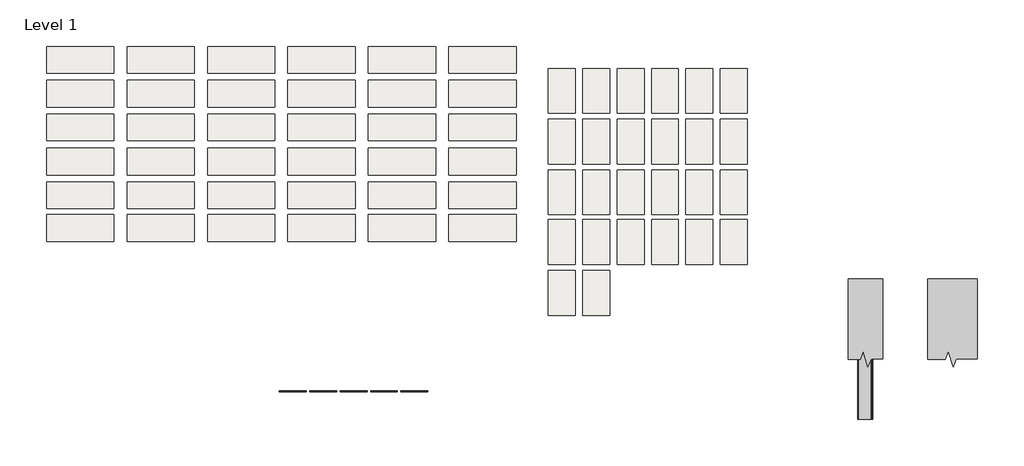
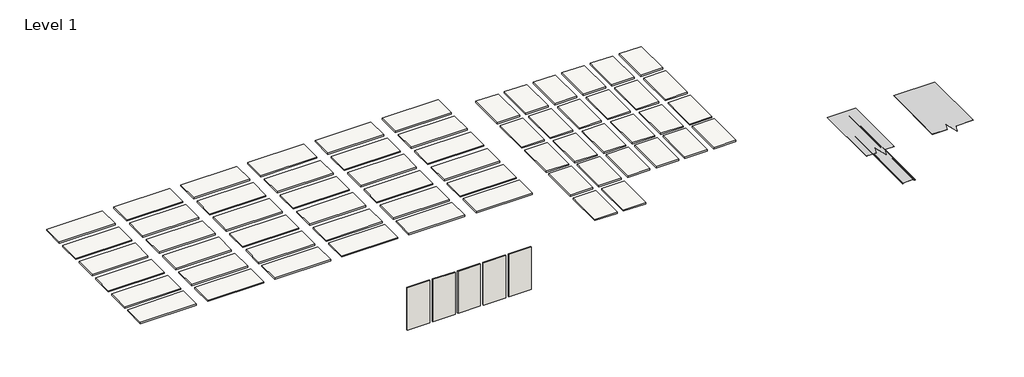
# One storey: 62 slabs, 5 walls, 3 proxies.
"""IFC4 building model written with IfcOpenShell, lengths in millimetres."""

from ifc_helpers import new_model, si_unit, frame, origin, origin_with_axes, place, context, project, spatial, polyline, outline, extrude, transform, mapped, element, save
from components import proxy_1fe1eae3, section_mask1_section_mask_d04c1bcf, section_mask2_section_mask_4546d134

model = new_model("IFC4")

# Units and contexts
model_context = context("Model", 3, world=origin())
ifc_project = project(units=[si_unit("LENGTHUNIT", "METRE", prefix="MILLI")], contexts=[model_context])

# Site, building, storey
site = spatial("IfcSite", under=ifc_project)
building = spatial("IfcBuilding", under=site)
storey = spatial("IfcBuildingStorey", under=building, Name="Level 1", Elevation=0.0)

# Proxies
placement = place(None, origin())
proxy_shape = proxy_1fe1eae3(model_context)
element("IfcBuildingElementProxy", 1, Name="Metal_Siding_Flush-Wall-Panel_Steelscape : 12\" Flush Wall Panel", ObjectType="Metal_Siding_Flush-Wall-Panel_Steelscape : 12\" Flush Wall Panel", at=placement, inside=storey, context=model_context, shape_type="MappedRepresentation", body=[
    mapped(proxy_shape, transform((8022.7632471, 2573.2522943, 0.0), x_axis=(1.0, 0.0, 0.0), y_axis=(0.0, 1.0, 0.0), z_axis=(0.0, 0.0, 1.0))),
])
section_mask1_section_mask_shape = section_mask1_section_mask_d04c1bcf(model_context)
element("IfcBuildingElementProxy", 2, Name="Section Mask1 : Section Mask", ObjectType="Section Mask1 : Section Mask", at=placement, inside=storey, context=model_context, shape_type="MappedRepresentation", body=[
    mapped(section_mask1_section_mask_shape, transform((1955.8, 0.0, 0.0), x_axis=(1.0, 0.0, 0.0), y_axis=(0.0, 1.0, 0.0), z_axis=(0.0, 0.0, 1.0))),
])
section_mask2_section_mask_shape = section_mask2_section_mask_4546d134(model_context)
element("IfcBuildingElementProxy", 3, Name="Section Mask2 : Section Mask", ObjectType="Section Mask2 : Section Mask", at=placement, inside=storey, context=model_context, shape_type="MappedRepresentation", body=[
    mapped(section_mask2_section_mask_shape, transform((19.05, 0.0, 0.0), x_axis=(1.0, 0.0, 0.0), y_axis=(0.0, 1.0, 0.0), z_axis=(0.0, 0.0, 1.0))),
])

# Slabs
element("IfcSlab", 4, ObjectType="Metal Siding - PAINTED - Steelscape", at=placement, inside=storey, context=model_context, shape_type="SweptSolid", body=[
    extrude(outline(polyline([(-9006.1610252, 7398.0362798), (-10530.1610252, 7398.0362798), (-10530.1610252, 8007.6362798), (-9006.1610252, 8007.6362798), (-9006.1610252, 7398.0362798)])), frame((0.0, 0.0, -38.1), z_axis=(0.0, 0.0, 1.0), x_axis=(1.0, 0.0, 0.0)), (0.0, 0.0, 1.0), 38.1),
])
element("IfcSlab", 5, ObjectType="Metal Siding - PAINTED - Steelscape", at=placement, inside=storey, context=model_context, shape_type="SweptSolid", body=[
    extrude(outline(polyline([(-9006.1610252, 6629.6862798), (-10530.1610252, 6629.6862798), (-10530.1610252, 7239.2862798), (-9006.1610252, 7239.2862798), (-9006.1610252, 6629.6862798)])), frame((0.0, 0.0, -38.1), z_axis=(0.0, 0.0, 1.0), x_axis=(1.0, 0.0, 0.0)), (0.0, 0.0, 1.0), 38.1),
])
element("IfcSlab", 6, ObjectType="Metal Siding - PAINTED - Steelscape", at=placement, inside=storey, context=model_context, shape_type="SweptSolid", body=[
    extrude(outline(polyline([(-9006.1610252, 5861.3362798), (-10530.1610252, 5861.3362798), (-10530.1610252, 6470.9362798), (-9006.1610252, 6470.9362798), (-9006.1610252, 5861.3362798)])), frame((0.0, 0.0, -38.1), z_axis=(0.0, 0.0, 1.0), x_axis=(1.0, 0.0, 0.0)), (0.0, 0.0, 1.0), 38.1),
])
element("IfcSlab", 7, ObjectType="Metal Siding - PAINTED - Steelscape", at=placement, inside=storey, context=model_context, shape_type="SweptSolid", body=[
    extrude(outline(polyline([(-9006.1610252, 5086.6362798), (-10530.1610252, 5086.6362798), (-10530.1610252, 5696.2362798), (-9006.1610252, 5696.2362798), (-9006.1610252, 5086.6362798)])), frame((0.0, 0.0, -38.1), z_axis=(0.0, 0.0, 1.0), x_axis=(1.0, 0.0, 0.0)), (0.0, 0.0, 1.0), 38.1),
])
element("IfcSlab", 8, ObjectType="Metal Siding - PAINTED - Steelscape", at=placement, inside=storey, context=model_context, shape_type="SweptSolid", body=[
    extrude(outline(polyline([(-9006.1610252, 4318.2862798), (-10530.1610252, 4318.2862798), (-10530.1610252, 4927.8862798), (-9006.1610252, 4927.8862798), (-9006.1610252, 4318.2862798)])), frame((0.0, 0.0, -38.1), z_axis=(0.0, 0.0, 1.0), x_axis=(1.0, 0.0, 0.0)), (0.0, 0.0, 1.0), 38.1),
])
element("IfcSlab", 9, ObjectType="Metal Siding - PAINTED - Steelscape", at=placement, inside=storey, context=model_context, shape_type="SweptSolid", body=[
    extrude(outline(polyline([(-9006.1610252, 3575.3362798), (-10530.1610252, 3575.3362798), (-10530.1610252, 4184.9362798), (-9006.1610252, 4184.9362798), (-9006.1610252, 3575.3362798)])), frame((0.0, 0.0, -38.1), z_axis=(0.0, 0.0, 1.0), x_axis=(1.0, 0.0, 0.0)), (0.0, 0.0, 1.0), 38.1),
])
element("IfcSlab", 10, ObjectType="Metal Siding - PAINTED - Steelscape", at=placement, inside=storey, context=model_context, shape_type="SweptSolid", body=[
    extrude(outline(polyline([(-7177.3610252, 7398.0362798), (-8701.3610252, 7398.0362798), (-8701.3610252, 8007.6362798), (-7177.3610252, 8007.6362798), (-7177.3610252, 7398.0362798)])), frame((0.0, 0.0, -38.1), z_axis=(0.0, 0.0, 1.0), x_axis=(1.0, 0.0, 0.0)), (0.0, 0.0, 1.0), 38.1),
])
element("IfcSlab", 11, ObjectType="Metal Siding - PAINTED - Steelscape", at=placement, inside=storey, context=model_context, shape_type="SweptSolid", body=[
    extrude(outline(polyline([(-7177.3610252, 6629.6862798), (-8701.3610252, 6629.6862798), (-8701.3610252, 7239.2862798), (-7177.3610252, 7239.2862798), (-7177.3610252, 6629.6862798)])), frame((0.0, 0.0, -38.1), z_axis=(0.0, 0.0, 1.0), x_axis=(1.0, 0.0, 0.0)), (0.0, 0.0, 1.0), 38.1),
])
element("IfcSlab", 12, ObjectType="Metal Siding - PAINTED - Steelscape", at=placement, inside=storey, context=model_context, shape_type="SweptSolid", body=[
    extrude(outline(polyline([(-7177.3610252, 5861.3362798), (-8701.3610252, 5861.3362798), (-8701.3610252, 6470.9362798), (-7177.3610252, 6470.9362798), (-7177.3610252, 5861.3362798)])), frame((0.0, 0.0, -38.1), z_axis=(0.0, 0.0, 1.0), x_axis=(1.0, 0.0, 0.0)), (0.0, 0.0, 1.0), 38.1),
])
element("IfcSlab", 13, ObjectType="Metal Siding - PAINTED - Steelscape", at=placement, inside=storey, context=model_context, shape_type="SweptSolid", body=[
    extrude(outline(polyline([(-7177.3610252, 5086.6362798), (-8701.3610252, 5086.6362798), (-8701.3610252, 5696.2362798), (-7177.3610252, 5696.2362798), (-7177.3610252, 5086.6362798)])), frame((0.0, 0.0, -38.1), z_axis=(0.0, 0.0, 1.0), x_axis=(1.0, 0.0, 0.0)), (0.0, 0.0, 1.0), 38.1),
])
element("IfcSlab", 14, ObjectType="Metal Siding - PAINTED - Steelscape", at=placement, inside=storey, context=model_context, shape_type="SweptSolid", body=[
    extrude(outline(polyline([(-7177.3610252, 4318.2862798), (-8701.3610252, 4318.2862798), (-8701.3610252, 4927.8862798), (-7177.3610252, 4927.8862798), (-7177.3610252, 4318.2862798)])), frame((0.0, 0.0, -38.1), z_axis=(0.0, 0.0, 1.0), x_axis=(1.0, 0.0, 0.0)), (0.0, 0.0, 1.0), 38.1),
])
element("IfcSlab", 15, ObjectType="Metal Siding - PAINTED - Steelscape", at=placement, inside=storey, context=model_context, shape_type="SweptSolid", body=[
    extrude(outline(polyline([(-7177.3610252, 3575.3362798), (-8701.3610252, 3575.3362798), (-8701.3610252, 4184.9362798), (-7177.3610252, 4184.9362798), (-7177.3610252, 3575.3362798)])), frame((0.0, 0.0, -38.1), z_axis=(0.0, 0.0, 1.0), x_axis=(1.0, 0.0, 0.0)), (0.0, 0.0, 1.0), 38.1),
])
element("IfcSlab", 16, ObjectType="Metal Siding - PAINTED - Steelscape", at=placement, inside=storey, context=model_context, shape_type="SweptSolid", body=[
    extrude(outline(polyline([(-5348.5610252, 7398.0362798), (-6872.5610252, 7398.0362798), (-6872.5610252, 8007.6362798), (-5348.5610252, 8007.6362798), (-5348.5610252, 7398.0362798)])), frame((0.0, 0.0, -38.1), z_axis=(0.0, 0.0, 1.0), x_axis=(1.0, 0.0, 0.0)), (0.0, 0.0, 1.0), 38.1),
])
element("IfcSlab", 17, ObjectType="Metal Siding - PAINTED - Steelscape", at=placement, inside=storey, context=model_context, shape_type="SweptSolid", body=[
    extrude(outline(polyline([(-5348.5610252, 6629.6862798), (-6872.5610252, 6629.6862798), (-6872.5610252, 7239.2862798), (-5348.5610252, 7239.2862798), (-5348.5610252, 6629.6862798)])), frame((0.0, 0.0, -38.1), z_axis=(0.0, 0.0, 1.0), x_axis=(1.0, 0.0, 0.0)), (0.0, 0.0, 1.0), 38.1),
])
element("IfcSlab", 18, ObjectType="Metal Siding - PAINTED - Steelscape", at=placement, inside=storey, context=model_context, shape_type="SweptSolid", body=[
    extrude(outline(polyline([(-5348.5610252, 5861.3362798), (-6872.5610252, 5861.3362798), (-6872.5610252, 6470.9362798), (-5348.5610252, 6470.9362798), (-5348.5610252, 5861.3362798)])), frame((0.0, 0.0, -38.1), z_axis=(0.0, 0.0, 1.0), x_axis=(1.0, 0.0, 0.0)), (0.0, 0.0, 1.0), 38.1),
])
element("IfcSlab", 19, ObjectType="Metal Siding - PAINTED - Steelscape", at=placement, inside=storey, context=model_context, shape_type="SweptSolid", body=[
    extrude(outline(polyline([(-5348.5610252, 5086.6362798), (-6872.5610252, 5086.6362798), (-6872.5610252, 5696.2362798), (-5348.5610252, 5696.2362798), (-5348.5610252, 5086.6362798)])), frame((0.0, 0.0, -38.1), z_axis=(0.0, 0.0, 1.0), x_axis=(1.0, 0.0, 0.0)), (0.0, 0.0, 1.0), 38.1),
])
element("IfcSlab", 20, ObjectType="Metal Siding - PAINTED - Steelscape", at=placement, inside=storey, context=model_context, shape_type="SweptSolid", body=[
    extrude(outline(polyline([(-5348.5610252, 4318.2862798), (-6872.5610252, 4318.2862798), (-6872.5610252, 4927.8862798), (-5348.5610252, 4927.8862798), (-5348.5610252, 4318.2862798)])), frame((0.0, 0.0, -38.1), z_axis=(0.0, 0.0, 1.0), x_axis=(1.0, 0.0, 0.0)), (0.0, 0.0, 1.0), 38.1),
])
element("IfcSlab", 21, ObjectType="Metal Siding - PAINTED - Steelscape", at=placement, inside=storey, context=model_context, shape_type="SweptSolid", body=[
    extrude(outline(polyline([(-5348.5610252, 3575.3362798), (-6872.5610252, 3575.3362798), (-6872.5610252, 4184.9362798), (-5348.5610252, 4184.9362798), (-5348.5610252, 3575.3362798)])), frame((0.0, 0.0, -38.1), z_axis=(0.0, 0.0, 1.0), x_axis=(1.0, 0.0, 0.0)), (0.0, 0.0, 1.0), 38.1),
])
element("IfcSlab", 22, ObjectType="Metal Siding - PAINTED - Steelscape", at=placement, inside=storey, context=model_context, shape_type="SweptSolid", body=[
    extrude(outline(polyline([(-3519.7610252, 7398.0362798), (-5043.7610252, 7398.0362798), (-5043.7610252, 8007.6362798), (-3519.7610252, 8007.6362798), (-3519.7610252, 7398.0362798)])), frame((0.0, 0.0, -38.1), z_axis=(0.0, 0.0, 1.0), x_axis=(1.0, 0.0, 0.0)), (0.0, 0.0, 1.0), 38.1),
])
element("IfcSlab", 23, ObjectType="Metal Siding - PAINTED - Steelscape", at=placement, inside=storey, context=model_context, shape_type="SweptSolid", body=[
    extrude(outline(polyline([(-3519.7610252, 6629.6862798), (-5043.7610252, 6629.6862798), (-5043.7610252, 7239.2862798), (-3519.7610252, 7239.2862798), (-3519.7610252, 6629.6862798)])), frame((0.0, 0.0, -38.1), z_axis=(0.0, 0.0, 1.0), x_axis=(1.0, 0.0, 0.0)), (0.0, 0.0, 1.0), 38.1),
])
element("IfcSlab", 24, ObjectType="Metal Siding - PAINTED - Steelscape", at=placement, inside=storey, context=model_context, shape_type="SweptSolid", body=[
    extrude(outline(polyline([(-3519.7610252, 5861.3362798), (-5043.7610252, 5861.3362798), (-5043.7610252, 6470.9362798), (-3519.7610252, 6470.9362798), (-3519.7610252, 5861.3362798)])), frame((0.0, 0.0, -38.1), z_axis=(0.0, 0.0, 1.0), x_axis=(1.0, 0.0, 0.0)), (0.0, 0.0, 1.0), 38.1),
])
element("IfcSlab", 25, ObjectType="Metal Siding - PAINTED - Steelscape", at=placement, inside=storey, context=model_context, shape_type="SweptSolid", body=[
    extrude(outline(polyline([(-3519.7610252, 5086.6362798), (-5043.7610252, 5086.6362798), (-5043.7610252, 5696.2362798), (-3519.7610252, 5696.2362798), (-3519.7610252, 5086.6362798)])), frame((0.0, 0.0, -38.1), z_axis=(0.0, 0.0, 1.0), x_axis=(1.0, 0.0, 0.0)), (0.0, 0.0, 1.0), 38.1),
])
element("IfcSlab", 26, ObjectType="Metal Siding - PAINTED - Steelscape", at=placement, inside=storey, context=model_context, shape_type="SweptSolid", body=[
    extrude(outline(polyline([(-3519.7610252, 4318.2862798), (-5043.7610252, 4318.2862798), (-5043.7610252, 4927.8862798), (-3519.7610252, 4927.8862798), (-3519.7610252, 4318.2862798)])), frame((0.0, 0.0, -38.1), z_axis=(0.0, 0.0, 1.0), x_axis=(1.0, 0.0, 0.0)), (0.0, 0.0, 1.0), 38.1),
])
element("IfcSlab", 27, ObjectType="Metal Siding - PAINTED - Steelscape", at=placement, inside=storey, context=model_context, shape_type="SweptSolid", body=[
    extrude(outline(polyline([(-3519.7610252, 3575.3362798), (-5043.7610252, 3575.3362798), (-5043.7610252, 4184.9362798), (-3519.7610252, 4184.9362798), (-3519.7610252, 3575.3362798)])), frame((0.0, 0.0, -38.1), z_axis=(0.0, 0.0, 1.0), x_axis=(1.0, 0.0, 0.0)), (0.0, 0.0, 1.0), 38.1),
])
element("IfcSlab", 28, ObjectType="Metal Siding - PAINTED - Steelscape", at=placement, inside=storey, context=model_context, shape_type="SweptSolid", body=[
    extrude(outline(polyline([(-1690.9610252, 7398.0362798), (-3214.9610252, 7398.0362798), (-3214.9610252, 8007.6362798), (-1690.9610252, 8007.6362798), (-1690.9610252, 7398.0362798)])), frame((0.0, 0.0, -38.1), z_axis=(0.0, 0.0, 1.0), x_axis=(1.0, 0.0, 0.0)), (0.0, 0.0, 1.0), 38.1),
])
element("IfcSlab", 29, ObjectType="Metal Siding - PAINTED - Steelscape", at=placement, inside=storey, context=model_context, shape_type="SweptSolid", body=[
    extrude(outline(polyline([(-1690.9610252, 6629.6862798), (-3214.9610252, 6629.6862798), (-3214.9610252, 7239.2862798), (-1690.9610252, 7239.2862798), (-1690.9610252, 6629.6862798)])), frame((0.0, 0.0, -38.1), z_axis=(0.0, 0.0, 1.0), x_axis=(1.0, 0.0, 0.0)), (0.0, 0.0, 1.0), 38.1),
])
element("IfcSlab", 30, ObjectType="Metal Siding - PAINTED - Steelscape", at=placement, inside=storey, context=model_context, shape_type="SweptSolid", body=[
    extrude(outline(polyline([(-1690.9610252, 5861.3362798), (-3214.9610252, 5861.3362798), (-3214.9610252, 6470.9362798), (-1690.9610252, 6470.9362798), (-1690.9610252, 5861.3362798)])), frame((0.0, 0.0, -38.1), z_axis=(0.0, 0.0, 1.0), x_axis=(1.0, 0.0, 0.0)), (0.0, 0.0, 1.0), 38.1),
])
element("IfcSlab", 31, ObjectType="Metal Siding - PAINTED - Steelscape", at=placement, inside=storey, context=model_context, shape_type="SweptSolid", body=[
    extrude(outline(polyline([(-1690.9610252, 5086.6362798), (-3214.9610252, 5086.6362798), (-3214.9610252, 5696.2362798), (-1690.9610252, 5696.2362798), (-1690.9610252, 5086.6362798)])), frame((0.0, 0.0, -38.1), z_axis=(0.0, 0.0, 1.0), x_axis=(1.0, 0.0, 0.0)), (0.0, 0.0, 1.0), 38.1),
])
element("IfcSlab", 32, ObjectType="Metal Siding - PAINTED - Steelscape", at=placement, inside=storey, context=model_context, shape_type="SweptSolid", body=[
    extrude(outline(polyline([(-1690.9610252, 4318.2862798), (-3214.9610252, 4318.2862798), (-3214.9610252, 4927.8862798), (-1690.9610252, 4927.8862798), (-1690.9610252, 4318.2862798)])), frame((0.0, 0.0, -38.1), z_axis=(0.0, 0.0, 1.0), x_axis=(1.0, 0.0, 0.0)), (0.0, 0.0, 1.0), 38.1),
])
element("IfcSlab", 33, ObjectType="Metal Siding - PAINTED - Steelscape", at=placement, inside=storey, context=model_context, shape_type="SweptSolid", body=[
    extrude(outline(polyline([(-1690.9610252, 3575.3362798), (-3214.9610252, 3575.3362798), (-3214.9610252, 4184.9362798), (-1690.9610252, 4184.9362798), (-1690.9610252, 3575.3362798)])), frame((0.0, 0.0, -38.1), z_axis=(0.0, 0.0, 1.0), x_axis=(1.0, 0.0, 0.0)), (0.0, 0.0, 1.0), 38.1),
])
element("IfcSlab", 34, ObjectType="Metal Siding - PAINTED - Steelscape", at=placement, inside=storey, context=model_context, shape_type="SweptSolid", body=[
    extrude(outline(polyline([(137.8389748, 7398.0362798), (-1386.1610252, 7398.0362798), (-1386.1610252, 8007.6362798), (137.8389748, 8007.6362798), (137.8389748, 7398.0362798)])), frame((0.0, 0.0, -38.1), z_axis=(0.0, 0.0, 1.0), x_axis=(1.0, 0.0, 0.0)), (0.0, 0.0, 1.0), 38.1),
])
element("IfcSlab", 35, ObjectType="Metal Siding - PAINTED - Steelscape", at=placement, inside=storey, context=model_context, shape_type="SweptSolid", body=[
    extrude(outline(polyline([(137.8389748, 6629.6862798), (-1386.1610252, 6629.6862798), (-1386.1610252, 7239.2862798), (137.8389748, 7239.2862798), (137.8389748, 6629.6862798)])), frame((0.0, 0.0, -38.1), z_axis=(0.0, 0.0, 1.0), x_axis=(1.0, 0.0, 0.0)), (0.0, 0.0, 1.0), 38.1),
])
element("IfcSlab", 36, ObjectType="Metal Siding - PAINTED - Steelscape", at=placement, inside=storey, context=model_context, shape_type="SweptSolid", body=[
    extrude(outline(polyline([(137.8389748, 5861.3362798), (-1386.1610252, 5861.3362798), (-1386.1610252, 6470.9362798), (137.8389748, 6470.9362798), (137.8389748, 5861.3362798)])), frame((0.0, 0.0, -38.1), z_axis=(0.0, 0.0, 1.0), x_axis=(1.0, 0.0, 0.0)), (0.0, 0.0, 1.0), 38.1),
])
element("IfcSlab", 37, ObjectType="Metal Siding - PAINTED - Steelscape", at=placement, inside=storey, context=model_context, shape_type="SweptSolid", body=[
    extrude(outline(polyline([(137.8389748, 5086.6362798), (-1386.1610252, 5086.6362798), (-1386.1610252, 5696.2362798), (137.8389748, 5696.2362798), (137.8389748, 5086.6362798)])), frame((0.0, 0.0, -38.1), z_axis=(0.0, 0.0, 1.0), x_axis=(1.0, 0.0, 0.0)), (0.0, 0.0, 1.0), 38.1),
])
element("IfcSlab", 38, ObjectType="Metal Siding - PAINTED - Steelscape", at=placement, inside=storey, context=model_context, shape_type="SweptSolid", body=[
    extrude(outline(polyline([(137.8389748, 4318.2862798), (-1386.1610252, 4318.2862798), (-1386.1610252, 4927.8862798), (137.8389748, 4927.8862798), (137.8389748, 4318.2862798)])), frame((0.0, 0.0, -38.1), z_axis=(0.0, 0.0, 1.0), x_axis=(1.0, 0.0, 0.0)), (0.0, 0.0, 1.0), 38.1),
])
element("IfcSlab", 39, ObjectType="Metal Siding - PAINTED - Steelscape", at=placement, inside=storey, context=model_context, shape_type="SweptSolid", body=[
    extrude(outline(polyline([(137.8389748, 3575.3362798), (-1386.1610252, 3575.3362798), (-1386.1610252, 4184.9362798), (137.8389748, 4184.9362798), (137.8389748, 3575.3362798)])), frame((0.0, 0.0, -38.1), z_axis=(0.0, 0.0, 1.0), x_axis=(1.0, 0.0, 0.0)), (0.0, 0.0, 1.0), 38.1),
])
element("IfcSlab", 40, ObjectType="AEP Span Material Sample", at=placement, inside=storey, context=model_context, shape_type="SweptSolid", body=[
    extrude(outline(polyline([(1485.5495194, 6492.0895229), (875.9495194, 6492.0895229), (875.9495194, 7508.0895229), (1485.5495194, 7508.0895229), (1485.5495194, 6492.0895229)])), frame((0.0, 0.0, -38.1), z_axis=(0.0, 0.0, 1.0), x_axis=(1.0, 0.0, 0.0)), (0.0, 0.0, 1.0), 38.1),
])
element("IfcSlab", 41, ObjectType="AEP Span Material Sample", at=placement, inside=storey, context=model_context, shape_type="SweptSolid", body=[
    extrude(outline(polyline([(2266.5995194, 6492.0895229), (1656.9995194, 6492.0895229), (1656.9995194, 7508.0895229), (2266.5995194, 7508.0895229), (2266.5995194, 6492.0895229)])), frame((0.0, 0.0, -38.1), z_axis=(0.0, 0.0, 1.0), x_axis=(1.0, 0.0, 0.0)), (0.0, 0.0, 1.0), 38.1),
])
element("IfcSlab", 42, ObjectType="AEP Span Material Sample", at=placement, inside=storey, context=model_context, shape_type="SweptSolid", body=[
    extrude(outline(polyline([(3047.6495194, 6492.0895229), (2438.0495194, 6492.0895229), (2438.0495194, 7508.0895229), (3047.6495194, 7508.0895229), (3047.6495194, 6492.0895229)])), frame((0.0, 0.0, -38.1), z_axis=(0.0, 0.0, 1.0), x_axis=(1.0, 0.0, 0.0)), (0.0, 0.0, 1.0), 38.1),
])
element("IfcSlab", 43, ObjectType="AEP Span Material Sample", at=placement, inside=storey, context=model_context, shape_type="SweptSolid", body=[
    extrude(outline(polyline([(3828.6995194, 6492.0895229), (3219.0995194, 6492.0895229), (3219.0995194, 7508.0895229), (3828.6995194, 7508.0895229), (3828.6995194, 6492.0895229)])), frame((0.0, 0.0, -38.1), z_axis=(0.0, 0.0, 1.0), x_axis=(1.0, 0.0, 0.0)), (0.0, 0.0, 1.0), 38.1),
])
element("IfcSlab", 44, ObjectType="AEP Span Material Sample", at=placement, inside=storey, context=model_context, shape_type="SweptSolid", body=[
    extrude(outline(polyline([(4609.7495194, 6492.0895229), (4000.1495194, 6492.0895229), (4000.1495194, 7508.0895229), (4609.7495194, 7508.0895229), (4609.7495194, 6492.0895229)])), frame((0.0, 0.0, -38.1), z_axis=(0.0, 0.0, 1.0), x_axis=(1.0, 0.0, 0.0)), (0.0, 0.0, 1.0), 38.1),
])
element("IfcSlab", 45, ObjectType="AEP Span Material Sample", at=placement, inside=storey, context=model_context, shape_type="SweptSolid", body=[
    extrude(outline(polyline([(5390.7995194, 6492.0895229), (4781.1995194, 6492.0895229), (4781.1995194, 7508.0895229), (5390.7995194, 7508.0895229), (5390.7995194, 6492.0895229)])), frame((0.0, 0.0, -38.1), z_axis=(0.0, 0.0, 1.0), x_axis=(1.0, 0.0, 0.0)), (0.0, 0.0, 1.0), 38.1),
])
element("IfcSlab", 46, ObjectType="AEP Span Material Sample", at=placement, inside=storey, context=model_context, shape_type="SweptSolid", body=[
    extrude(outline(polyline([(1485.5495194, 5336.3895229), (875.9495194, 5336.3895229), (875.9495194, 6352.3895229), (1485.5495194, 6352.3895229), (1485.5495194, 5336.3895229)])), frame((0.0, 0.0, -38.1), z_axis=(0.0, 0.0, 1.0), x_axis=(1.0, 0.0, 0.0)), (0.0, 0.0, 1.0), 38.1),
])
element("IfcSlab", 47, ObjectType="AEP Span Material Sample", at=placement, inside=storey, context=model_context, shape_type="SweptSolid", body=[
    extrude(outline(polyline([(2266.5995194, 5336.3895229), (1656.9995194, 5336.3895229), (1656.9995194, 6352.3895229), (2266.5995194, 6352.3895229), (2266.5995194, 5336.3895229)])), frame((0.0, 0.0, -38.1), z_axis=(0.0, 0.0, 1.0), x_axis=(1.0, 0.0, 0.0)), (0.0, 0.0, 1.0), 38.1),
])
element("IfcSlab", 48, ObjectType="AEP Span Material Sample", at=placement, inside=storey, context=model_context, shape_type="SweptSolid", body=[
    extrude(outline(polyline([(3047.6495194, 5336.3895229), (2438.0495194, 5336.3895229), (2438.0495194, 6352.3895229), (3047.6495194, 6352.3895229), (3047.6495194, 5336.3895229)])), frame((0.0, 0.0, -38.1), z_axis=(0.0, 0.0, 1.0), x_axis=(1.0, 0.0, 0.0)), (0.0, 0.0, 1.0), 38.1),
])
element("IfcSlab", 49, ObjectType="AEP Span Material Sample", at=placement, inside=storey, context=model_context, shape_type="SweptSolid", body=[
    extrude(outline(polyline([(3828.6995194, 5336.3895229), (3219.0995194, 5336.3895229), (3219.0995194, 6352.3895229), (3828.6995194, 6352.3895229), (3828.6995194, 5336.3895229)])), frame((0.0, 0.0, -38.1), z_axis=(0.0, 0.0, 1.0), x_axis=(1.0, 0.0, 0.0)), (0.0, 0.0, 1.0), 38.1),
])
element("IfcSlab", 50, ObjectType="AEP Span Material Sample", at=placement, inside=storey, context=model_context, shape_type="SweptSolid", body=[
    extrude(outline(polyline([(4609.7495194, 5336.3895229), (4000.1495194, 5336.3895229), (4000.1495194, 6352.3895229), (4609.7495194, 6352.3895229), (4609.7495194, 5336.3895229)])), frame((0.0, 0.0, -38.1), z_axis=(0.0, 0.0, 1.0), x_axis=(1.0, 0.0, 0.0)), (0.0, 0.0, 1.0), 38.1),
])
element("IfcSlab", 51, ObjectType="AEP Span Material Sample", at=placement, inside=storey, context=model_context, shape_type="SweptSolid", body=[
    extrude(outline(polyline([(5390.7995194, 5336.3895229), (4781.1995194, 5336.3895229), (4781.1995194, 6352.3895229), (5390.7995194, 6352.3895229), (5390.7995194, 5336.3895229)])), frame((0.0, 0.0, -38.1), z_axis=(0.0, 0.0, 1.0), x_axis=(1.0, 0.0, 0.0)), (0.0, 0.0, 1.0), 38.1),
])
element("IfcSlab", 52, ObjectType="AEP Span Material Sample", at=placement, inside=storey, context=model_context, shape_type="SweptSolid", body=[
    extrude(outline(polyline([(1485.5495194, 4180.6895229), (875.9495194, 4180.6895229), (875.9495194, 5196.6895229), (1485.5495194, 5196.6895229), (1485.5495194, 4180.6895229)])), frame((0.0, 0.0, -38.1), z_axis=(0.0, 0.0, 1.0), x_axis=(1.0, 0.0, 0.0)), (0.0, 0.0, 1.0), 38.1),
])
element("IfcSlab", 53, ObjectType="AEP Span Material Sample", at=placement, inside=storey, context=model_context, shape_type="SweptSolid", body=[
    extrude(outline(polyline([(2266.5995194, 4180.6895229), (1656.9995194, 4180.6895229), (1656.9995194, 5196.6895229), (2266.5995194, 5196.6895229), (2266.5995194, 4180.6895229)])), frame((0.0, 0.0, -38.1), z_axis=(0.0, 0.0, 1.0), x_axis=(1.0, 0.0, 0.0)), (0.0, 0.0, 1.0), 38.1),
])
element("IfcSlab", 54, ObjectType="AEP Span Material Sample", at=placement, inside=storey, context=model_context, shape_type="SweptSolid", body=[
    extrude(outline(polyline([(3047.6495194, 4180.6895229), (2438.0495194, 4180.6895229), (2438.0495194, 5196.6895229), (3047.6495194, 5196.6895229), (3047.6495194, 4180.6895229)])), frame((0.0, 0.0, -38.1), z_axis=(0.0, 0.0, 1.0), x_axis=(1.0, 0.0, 0.0)), (0.0, 0.0, 1.0), 38.1),
])
element("IfcSlab", 55, ObjectType="AEP Span Material Sample", at=placement, inside=storey, context=model_context, shape_type="SweptSolid", body=[
    extrude(outline(polyline([(3828.6995194, 4180.6895229), (3219.0995194, 4180.6895229), (3219.0995194, 5196.6895229), (3828.6995194, 5196.6895229), (3828.6995194, 4180.6895229)])), frame((0.0, 0.0, -38.1), z_axis=(0.0, 0.0, 1.0), x_axis=(1.0, 0.0, 0.0)), (0.0, 0.0, 1.0), 38.1),
])
element("IfcSlab", 56, ObjectType="AEP Span Material Sample", at=placement, inside=storey, context=model_context, shape_type="SweptSolid", body=[
    extrude(outline(polyline([(4609.7495194, 4180.6895229), (4000.1495194, 4180.6895229), (4000.1495194, 5196.6895229), (4609.7495194, 5196.6895229), (4609.7495194, 4180.6895229)])), frame((0.0, 0.0, -38.1), z_axis=(0.0, 0.0, 1.0), x_axis=(1.0, 0.0, 0.0)), (0.0, 0.0, 1.0), 38.1),
])
element("IfcSlab", 57, ObjectType="AEP Span Material Sample", at=placement, inside=storey, context=model_context, shape_type="SweptSolid", body=[
    extrude(outline(polyline([(5390.7995194, 4180.6895229), (4781.1995194, 4180.6895229), (4781.1995194, 5196.6895229), (5390.7995194, 5196.6895229), (5390.7995194, 4180.6895229)])), frame((0.0, 0.0, -38.1), z_axis=(0.0, 0.0, 1.0), x_axis=(1.0, 0.0, 0.0)), (0.0, 0.0, 1.0), 38.1),
])
element("IfcSlab", 58, ObjectType="AEP Span Material Sample", at=placement, inside=storey, context=model_context, shape_type="SweptSolid", body=[
    extrude(outline(polyline([(1485.5495194, 3050.3895229), (875.9495194, 3050.3895229), (875.9495194, 4066.3895229), (1485.5495194, 4066.3895229), (1485.5495194, 3050.3895229)])), frame((0.0, 0.0, -38.1), z_axis=(0.0, 0.0, 1.0), x_axis=(1.0, 0.0, 0.0)), (0.0, 0.0, 1.0), 38.1),
])
element("IfcSlab", 59, ObjectType="AEP Span Material Sample", at=placement, inside=storey, context=model_context, shape_type="SweptSolid", body=[
    extrude(outline(polyline([(2266.5995194, 3050.3895229), (1656.9995194, 3050.3895229), (1656.9995194, 4066.3895229), (2266.5995194, 4066.3895229), (2266.5995194, 3050.3895229)])), frame((0.0, 0.0, -38.1), z_axis=(0.0, 0.0, 1.0), x_axis=(1.0, 0.0, 0.0)), (0.0, 0.0, 1.0), 38.1),
])
element("IfcSlab", 60, ObjectType="AEP Span Material Sample", at=placement, inside=storey, context=model_context, shape_type="SweptSolid", body=[
    extrude(outline(polyline([(3047.6495194, 3050.3895229), (2438.0495194, 3050.3895229), (2438.0495194, 4066.3895229), (3047.6495194, 4066.3895229), (3047.6495194, 3050.3895229)])), frame((0.0, 0.0, -38.1), z_axis=(0.0, 0.0, 1.0), x_axis=(1.0, 0.0, 0.0)), (0.0, 0.0, 1.0), 38.1),
])
element("IfcSlab", 61, ObjectType="AEP Span Material Sample", at=placement, inside=storey, context=model_context, shape_type="SweptSolid", body=[
    extrude(outline(polyline([(3828.6995194, 3050.3895229), (3219.0995194, 3050.3895229), (3219.0995194, 4066.3895229), (3828.6995194, 4066.3895229), (3828.6995194, 3050.3895229)])), frame((0.0, 0.0, -38.1), z_axis=(0.0, 0.0, 1.0), x_axis=(1.0, 0.0, 0.0)), (0.0, 0.0, 1.0), 38.1),
])
element("IfcSlab", 62, ObjectType="AEP Span Material Sample", at=placement, inside=storey, context=model_context, shape_type="SweptSolid", body=[
    extrude(outline(polyline([(4609.7495194, 3050.3895229), (4000.1495194, 3050.3895229), (4000.1495194, 4066.3895229), (4609.7495194, 4066.3895229), (4609.7495194, 3050.3895229)])), frame((0.0, 0.0, -38.1), z_axis=(0.0, 0.0, 1.0), x_axis=(1.0, 0.0, 0.0)), (0.0, 0.0, 1.0), 38.1),
])
element("IfcSlab", 63, ObjectType="AEP Span Material Sample", at=placement, inside=storey, context=model_context, shape_type="SweptSolid", body=[
    extrude(outline(polyline([(5390.7995194, 3050.3895229), (4781.1995194, 3050.3895229), (4781.1995194, 4066.3895229), (5390.7995194, 4066.3895229), (5390.7995194, 3050.3895229)])), frame((0.0, 0.0, -38.1), z_axis=(0.0, 0.0, 1.0), x_axis=(1.0, 0.0, 0.0)), (0.0, 0.0, 1.0), 38.1),
])
element("IfcSlab", 64, ObjectType="AEP Span Material Sample", at=placement, inside=storey, context=model_context, shape_type="SweptSolid", body=[
    extrude(outline(polyline([(1485.5495194, 1894.6895229), (875.9495194, 1894.6895229), (875.9495194, 2910.6895229), (1485.5495194, 2910.6895229), (1485.5495194, 1894.6895229)])), frame((0.0, 0.0, -38.1), z_axis=(0.0, 0.0, 1.0), x_axis=(1.0, 0.0, 0.0)), (0.0, 0.0, 1.0), 38.1),
])
element("IfcSlab", 65, ObjectType="AEP Span Material Sample", at=placement, inside=storey, context=model_context, shape_type="SweptSolid", body=[
    extrude(outline(polyline([(2266.5995194, 1894.6895229), (1656.9995194, 1894.6895229), (1656.9995194, 2910.6895229), (2266.5995194, 2910.6895229), (2266.5995194, 1894.6895229)])), frame((0.0, 0.0, -38.1), z_axis=(0.0, 0.0, 1.0), x_axis=(1.0, 0.0, 0.0)), (0.0, 0.0, 1.0), 38.1),
])

# Walls
element("IfcWall", 66, ObjectType="12\" Flush Wall Panel", at=placement, inside=storey, context=model_context, shape_type="SweptSolid", body=[
    extrude(outline(polyline([(-3937.6388046, 147.5522943), (-4547.2388046, 147.5522943), (-4547.2388046, 172.9522943), (-3937.6388046, 172.9522943), (-3937.6388046, 147.5522943)])), origin_with_axes(), (0.0, 0.0, 1.0), 1219.2),
])
element("IfcWall", 67, ObjectType="12\" Flush Wall Panel", at=placement, inside=storey, context=model_context, shape_type="SweptSolid", body=[
    extrude(outline(polyline([(-3247.4731796, 147.5522943), (-3857.0731796, 147.5522943), (-3857.0731796, 172.9522943), (-3247.4731796, 172.9522943), (-3247.4731796, 147.5522943)])), origin_with_axes(), (0.0, 0.0, 1.0), 1219.2),
])
element("IfcWall", 68, ObjectType="12\" Flush Wall Panel", at=placement, inside=storey, context=model_context, shape_type="SweptSolid", body=[
    extrude(outline(polyline([(-2557.3075546, 147.5522943), (-3166.9075546, 147.5522943), (-3166.9075546, 172.9522943), (-2557.3075546, 172.9522943), (-2557.3075546, 147.5522943)])), origin_with_axes(), (0.0, 0.0, 1.0), 1219.2),
])
element("IfcWall", 69, ObjectType="12\" Flush Wall Panel", at=placement, inside=storey, context=model_context, shape_type="SweptSolid", body=[
    extrude(outline(polyline([(-1867.1419296, 147.5522943), (-2476.7419296, 147.5522943), (-2476.7419296, 172.9522943), (-1867.1419296, 172.9522943), (-1867.1419296, 147.5522943)])), origin_with_axes(), (0.0, 0.0, 1.0), 1219.2),
])
element("IfcWall", 70, ObjectType="12\" Flush Wall Panel", at=placement, inside=storey, context=model_context, shape_type="SweptSolid", body=[
    extrude(outline(polyline([(-4627.8044296, 147.5522943), (-5237.4044296, 147.5522943), (-5237.4044296, 172.9522943), (-4627.8044296, 172.9522943), (-4627.8044296, 147.5522943)])), origin_with_axes(), (0.0, 0.0, 1.0), 1219.2),
])

save(model, "model.ifc")
